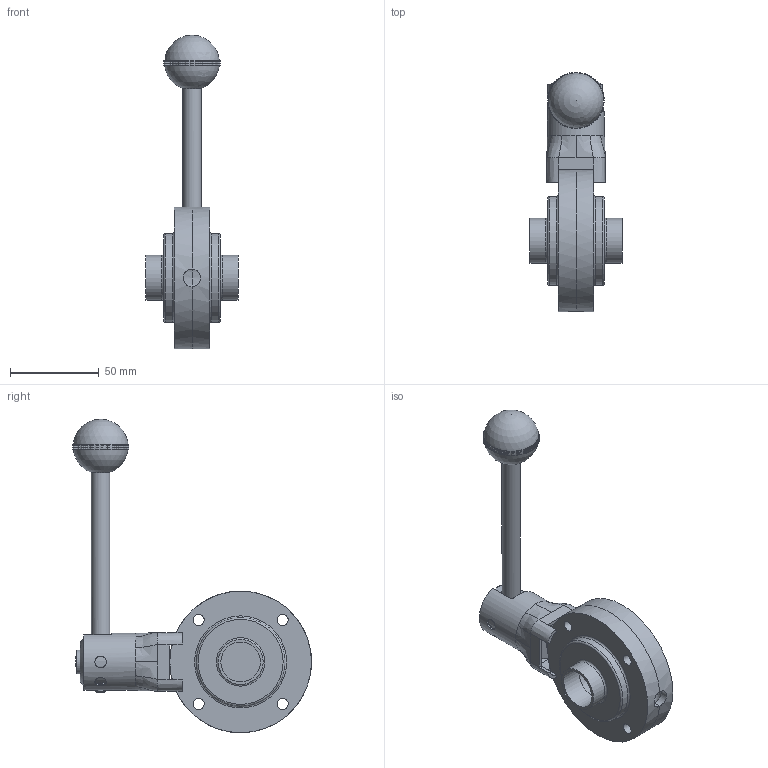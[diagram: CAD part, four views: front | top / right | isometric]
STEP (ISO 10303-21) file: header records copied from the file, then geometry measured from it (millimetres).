
FILE_DESCRIPTION(/* description */ ('VVF VALV.FARF.DN25.4 S/S EPDM 316 LEVA INOX 3POS.'),/* implementation_level */ '2;1');
FILE_NAME(/* name */ 'C:\_DED_PWS\ZIGN-L\DB\B\EBA\BEBAAL100BEBV-00^SAGOMA.step',/* time_stamp */ '2022-06-15T13:37:23+02:00',/* author */ (''),/* organization */ (''),/* preprocessor_version */ 'ST-DEVELOPER v18.1',/* originating_system */ 'Autodesk Inventor 2022',/* authorisation */ '');
FILE_SCHEMA (('CONFIG_CONTROL_DESIGN'));
Length unit declared in the file: millimetre
Products named in the file (3): BEBAAL100BEBV; TNU430065AAA; TWDBB0257
Assembly tree (3 placements, depth 2):
  BEBAAL100BEBV
    TNU430065AAA
    TWDBB0257  x2
Bounding box: 52 x 134.93 x 177.01 mm (x, y, z)
Volume: 163659.5 mm3; surface area: 59156.4 mm2
Topology: 4 solids, 5 shells, 547 faces, 1346 edges, 887 vertices
Faces by surface type: plane 351, torus 85, cylinder 58, bspline 38, cone 11, sphere 4
Full cylindrical faces by diameter (mm): 6 x2, 6.2 x8, 6.5 x3, 9 x3, 9.3 x1, 10 x1, 10.4 x1, 10.5 x1, 11 x1, 11.1 x1, 11.4 x2, 13.4 x1, 15 x1, 15.2 x1, 22.4 x2, 25.4 x2, 27.8 x1, 28.4 x1, 32.2 x1, 50 x2, 80 x2
Entity records: 26626 total; most frequent: CARTESIAN_POINT 13671, ORIENTED_EDGE 2592, DIRECTION 2580, EDGE_CURVE 1296, AXIS2_PLACEMENT_3D 1074, VERTEX_POINT 856, EDGE_LOOP 626, CIRCLE 580
